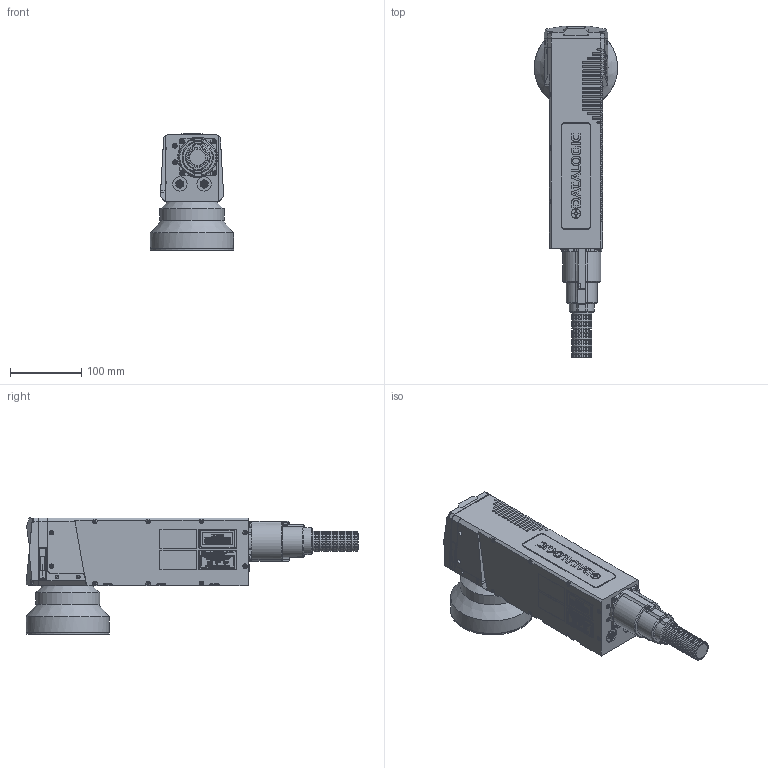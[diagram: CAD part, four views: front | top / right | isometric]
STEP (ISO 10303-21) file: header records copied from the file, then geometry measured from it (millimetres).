
FILE_DESCRIPTION(/* description */ (''),/* implementation_level */ '2;1');
FILE_NAME(/* name */ 'DSD-1269_STEP-20260119.stp',/* time_stamp */ '2026-01-19T09:03:55+01:00',/* author */ (''),/* organization */ (''),/* preprocessor_version */ 'ST-DEVELOPER v20',/* originating_system */ 'SIEMENS PLM Software NX2412.8701',/* authorisation */ '');
FILE_SCHEMA (('AUTOMOTIVE_DESIGN { 1 0 10303 214 3 1 1 1 }'));
Length unit declared in the file: millimetre
Products named in the file (1): DSD-1269_STEP-20260119_objects
Bounding box: 116.99 x 466.8 x 163.49 mm (x, y, z)
Volume: 2960150.8 mm3; surface area: 223931.4 mm2
Topology: 2 solids, 4 shells, 4966 faces, 14079 edges, 9818 vertices
Faces by surface type: plane 3398, extrusion 922, cylinder 422, cone 132, torus 62, bspline 28, sphere 2
Full cylindrical faces by diameter (mm): 1.05 x9, 1.6 x5, 3 x6, 3.3 x8, 4.2 x15, 5 x9, 5.5 x6, 5.65 x1, 5.7 x20, 6.2 x4, 6.5 x2, 7 x4, 7.1 x2, 8.1 x4, 8.9 x2, 19.6 x1, 20 x3, 22.8 x13, 28.3 x13, 60 x1, 62.4 x1, 63 x1, 90 x1, 108 x1, 111.7 x1, 113 x1, 117 x2
Entity records: 215643 total; most frequent: CARTESIAN_POINT 67777, ORIENTED_EDGE 27276, DIRECTION 18622, EDGE_CURVE 13638, VERTEX_POINT 9727, VECTOR 8318, LINE 7396, EDGE_LOOP 6006
